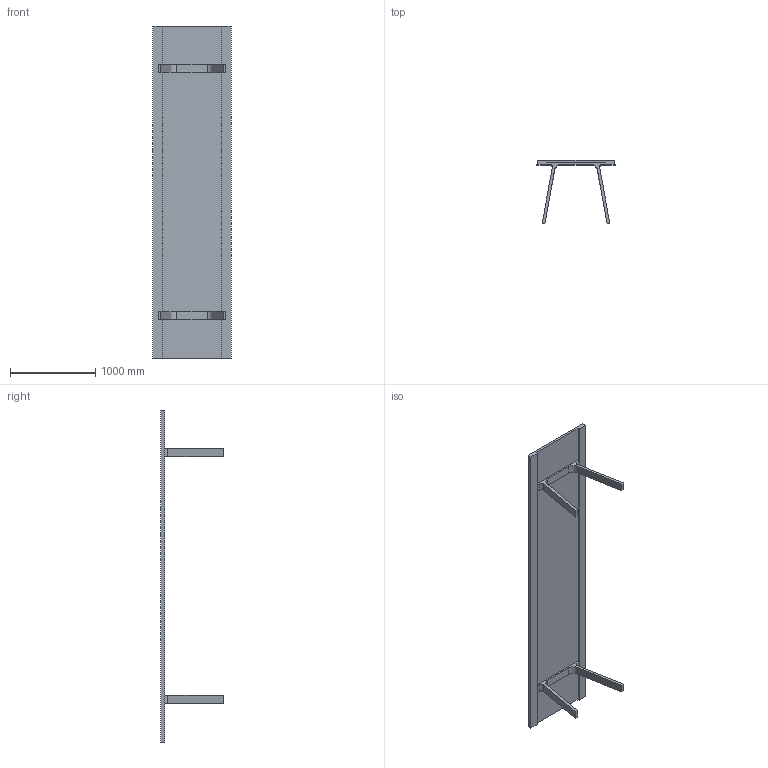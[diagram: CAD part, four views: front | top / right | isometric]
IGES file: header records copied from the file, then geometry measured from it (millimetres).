
Start section: SolidWorks IGES file using analytic representation for surfaces
Global section: file name: G:\Product Info\Doble\3D\igs\Doble 390x90x74.IGS; native system: SolidWorks 2008; preprocessor: SolidWorks 2008; author: remko; date: 080826.135204; units: millimetre
Bounding box: 917.63 x 740 x 3900 mm (x, y, z)
Surface area: 8580892.1 mm2 (no closed solid volume)
Topology: 0 solids, 0 shells, 46 faces, 356 edges, 356 vertices
Faces by surface type: bspline 36, revolution 10
